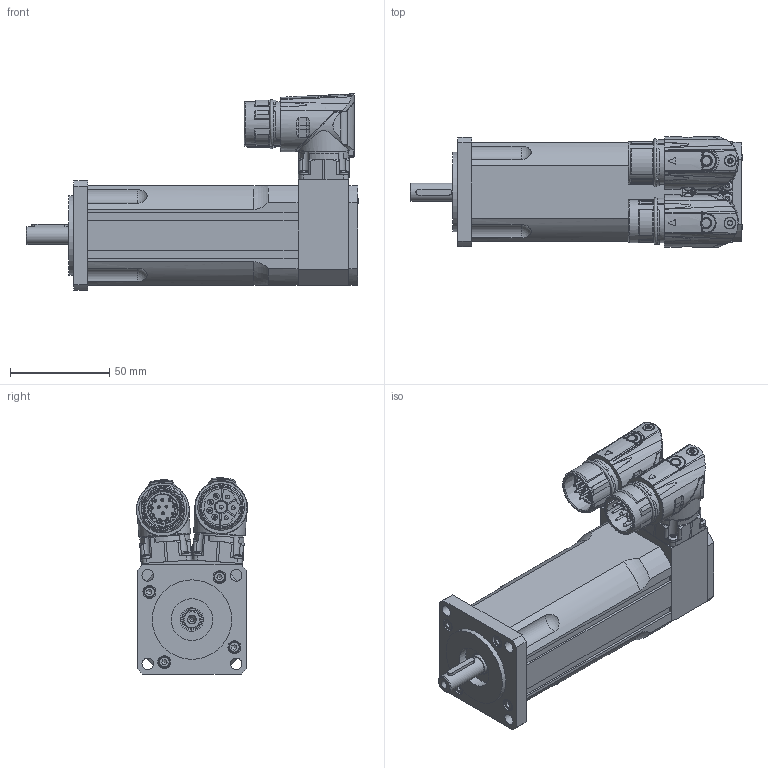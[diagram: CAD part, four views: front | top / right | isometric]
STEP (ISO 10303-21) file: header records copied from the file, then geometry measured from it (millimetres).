
FILE_DESCRIPTION(/* description */ (''),/* implementation_level */ '2;1');
FILE_NAME(/* name */ 'C:\PDF_output\T2000 00 P Z_0080_S4_S1_8P_12P.stp',/* time_stamp */ '2020-02-03T07:47:21+01:00',/* author */ ('oslejsek'),/* organization */ (''),/* preprocessor_version */ 'ST-DEVELOPER v18',/* originating_system */ 'Autodesk Inventor 2020',/* authorisation */ '');
FILE_SCHEMA (('AUTOMOTIVE_DESIGN { 1 0 10303 214 3 1 1 }'));
Products named in the file (9): T2000 00 P Z_0080_S4_S1_8P_12P; T2000 00 P Z_front; T2000 00 P Z_0080_rear; BED_0201_8-polig, Stift; Basis 2; Basis 11; AED_0201_12-polig, Stift; 124888; 127323
Assembly tree (8 placements, depth 3):
  T2000 00 P Z_0080_S4_S1_8P_12P
    T2000 00 P Z_front
    T2000 00 P Z_0080_rear
    BED_0201_8-polig, Stift
      Basis 2
      Basis 11
    AED_0201_12-polig, Stift
      124888
      127323
Bounding box: 167.2 x 55.85 x 98.91 mm (x, y, z)
Volume: 383574 mm3; surface area: 78687 mm2
Topology: 6 solids, 6 shells, 1876 faces, 5088 edges, 3294 vertices
Faces by surface type: cylinder 814, plane 565, bspline 256, cone 120, torus 83, sphere 38
Full cylindrical faces by diameter (mm): 1 x16, 1.18 x12, 1.2 x12, 1.3 x4, 1.6 x1, 2 x5, 2.208 x8, 2.4 x8, 2.5 x8, 2.7 x4, 2.8 x4, 3 x11, 3.1 x4, 3.2 x1, 3.3 x4, 4.5 x2, 5 x4, 5.5 x8, 5.6 x4, 5.8 x5, 5.9 x2, 6 x1, 6.4 x1, 6.5 x9, 6.8 x1, 9 x1, 9.5 x1, 10 x1, 10.2 x2, 12 x1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
Entity records: 74765 total; most frequent: CARTESIAN_POINT 25382, ORIENTED_EDGE 10074, DIRECTION 9951, EDGE_CURVE 5037, AXIS2_PLACEMENT_3D 4128, VERTEX_POINT 3294, CIRCLE 2277, EDGE_LOOP 2115
